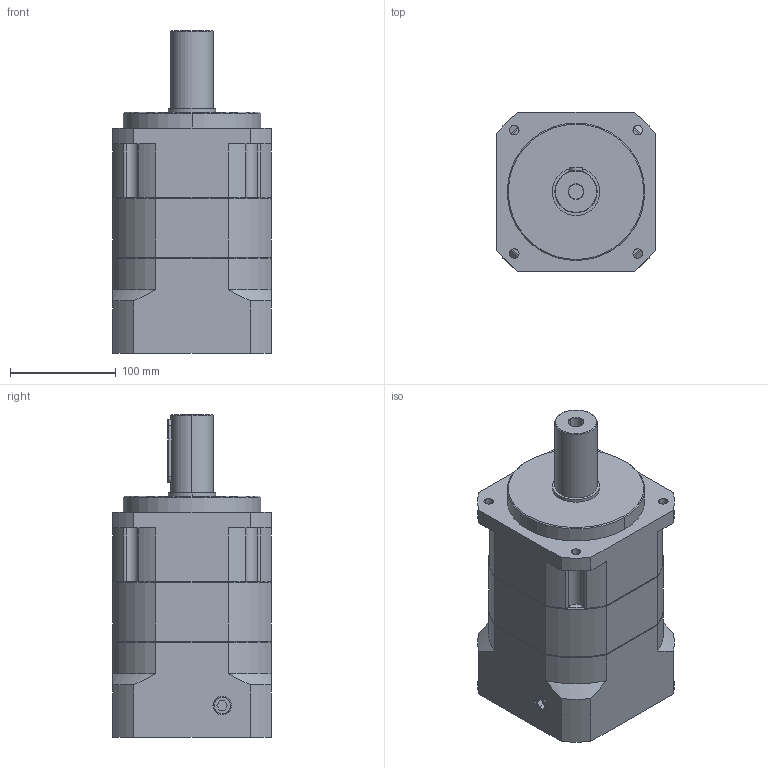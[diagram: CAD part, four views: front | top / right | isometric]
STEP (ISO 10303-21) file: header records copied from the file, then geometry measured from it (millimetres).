
FILE_DESCRIPTION((''),'2;1');
FILE_NAME('01-0_ASM','2017-04-21T',('Administrator'),(''),'PRO/ENGINEER BY PARAMETRIC TECHNOLOGY CORPORATION, 2010280','PRO/ENGINEER BY PARAMETRIC TECHNOLOGY CORPORATION, 2010280','');
FILE_SCHEMA(('CONFIG_CONTROL_DESIGN'));
Length unit declared in the file: millimetre
Products named in the file (11): 01-1; 01-2; 01-3; 01-04; 01-05; 01-06; 01-07; 01-08_ASM; 01-08; 1-09; 01-0_ASM
Assembly tree (16 placements, depth 3):
  01-0_ASM
    01-1
    01-2
    01-3
    01-04  x2
    01-05
    01-08_ASM
      01-06
      01-07
    01-08  x6
    1-09
Bounding box: 150 x 150 x 305 mm (x, y, z)
Volume: 4333028.6 mm3; surface area: 326624.1 mm2
Topology: 15 solids, 15 shells, 350 faces, 794 edges, 504 vertices
Faces by surface type: plane 151, cylinder 138, cone 39, sphere 14, torus 8
Entity records: 8218 total; most frequent: CARTESIAN_POINT 1508, DIRECTION 1503, ORIENTED_EDGE 1252, EDGE_CURVE 626, AXIS2_PLACEMENT_3D 602, VERTEX_POINT 396, EDGE_LOOP 314, CIRCLE 301
